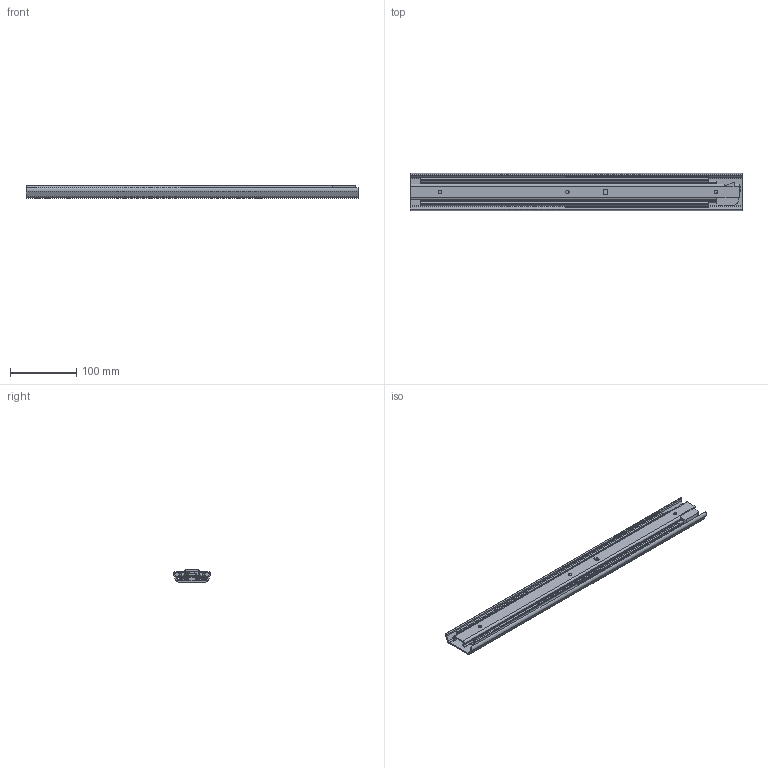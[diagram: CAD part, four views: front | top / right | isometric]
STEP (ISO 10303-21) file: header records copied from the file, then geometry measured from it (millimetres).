
FILE_DESCRIPTION( ( 'STEP AP203' ), '1' );
FILE_NAME( 'C:/Temp/Ganter_Step_05_03_2020/data/3_8/gn1422/Telescopic slide GN 1422-500-B-2-ZB (0).stp', '2020-03-12T15:26:05', ( 'License CC BY-ND 4.0' ), ( 'CADENAS' ), ' ', 'PARTsolutions', ' ' );
FILE_SCHEMA( ( 'CONFIG_CONTROL_DESIGN' ) );
Length unit declared in the file: millimetre
Products named in the file (4): Telescopic slide GN 1422-500-B-2-ZB (0); _Telescopic slide GN 1422-500-B-2-ZB (0)-1; _Telescopic slide GN 1422-500-B-2-ZB (0)-2; _Telescopic slide GN 1422-500-B-2-ZB (0)-3
Assembly tree (3 placements, depth 2):
  Telescopic slide GN 1422-500-B-2-ZB (0)
    _Telescopic slide GN 1422-500-B-2-ZB (0)-1
    _Telescopic slide GN 1422-500-B-2-ZB (0)-2
    _Telescopic slide GN 1422-500-B-2-ZB (0)-3
Bounding box: 500 x 55.78 x 18.5 mm (x, y, z)
Volume: 202963.6 mm3; surface area: 216541.9 mm2
Topology: 3 solids, 3 shells, 320 faces, 941 edges, 618 vertices
Faces by surface type: plane 190, cylinder 123, cone 7
Full cylindrical faces by diameter (mm): 5 x3, 6.5 x4, 11 x3
Entity records: 10840 total; most frequent: CARTESIAN_POINT 1980, ORIENTED_EDGE 1842, DIRECTION 1823, EDGE_CURVE 921, LINE 643, VECTOR 643, VERTEX_POINT 615, AXIS2_PLACEMENT_3D 590
